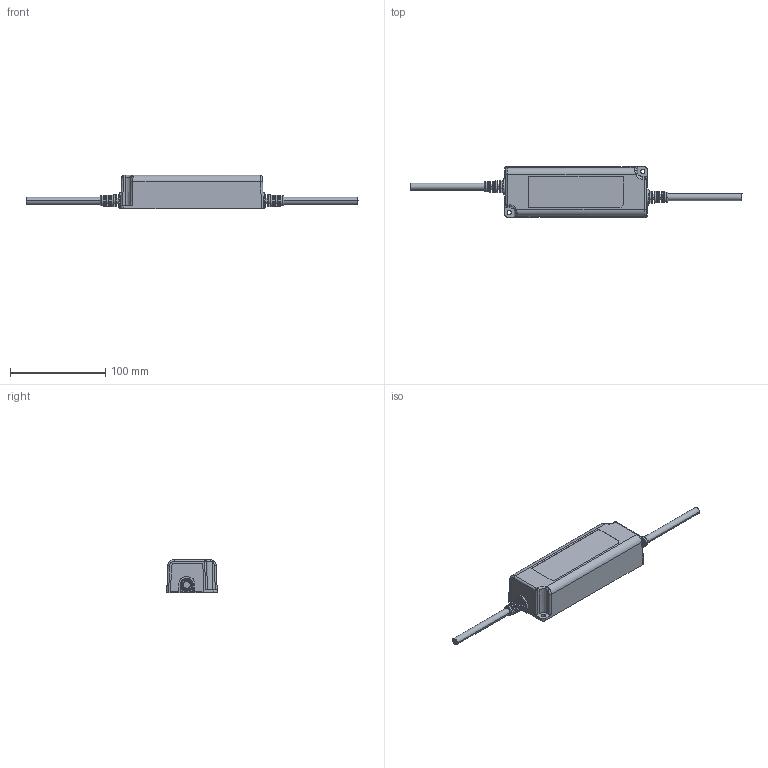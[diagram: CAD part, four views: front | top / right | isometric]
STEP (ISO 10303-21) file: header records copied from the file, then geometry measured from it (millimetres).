
FILE_DESCRIPTION((''),'2;1');
FILE_NAME('PWM-60-KN_ASM','2020-06-09T10:43:25',('shalinice'),(''),'CREO PARAMETRIC BY PTC INC, 2016390','CREO PARAMETRIC BY PTC INC, 2016390','');
FILE_SCHEMA(('AUTOMOTIVE_DESIGN { 1 0 10303 214 1 1 1 1 }'));
Length unit declared in the file: millimetre
Products named in the file (7): BASE-103240; 00_ASM; TOP-155540; DC_CABLE_1_1; DD; PWM-60-KN_ASM
Assembly tree (6 placements, depth 3):
  PWM-60-KN_ASM
    00_ASM
      BASE-103240
    00_ASM
      TOP-155540
    DC_CABLE_1_1
    DD
Bounding box: 348.42 x 53 x 35 mm (x, y, z)
Volume: 67288.9 mm3; surface area: 64845.9 mm2
Topology: 4 solids, 4 shells, 725 faces, 2043 edges, 1339 vertices
Faces by surface type: plane 429, cylinder 161, bspline 54, torus 51, cone 22, sphere 8
Entity records: 33688 total; most frequent: CARTESIAN_POINT 8742, ORIENTED_EDGE 4070, DIRECTION 3583, PRESENTATION_STYLE_ASSIGNMENT 2039, STYLED_ITEM 2039, CURVE_STYLE 2035, EDGE_CURVE 2035, VERTEX_POINT 1339
